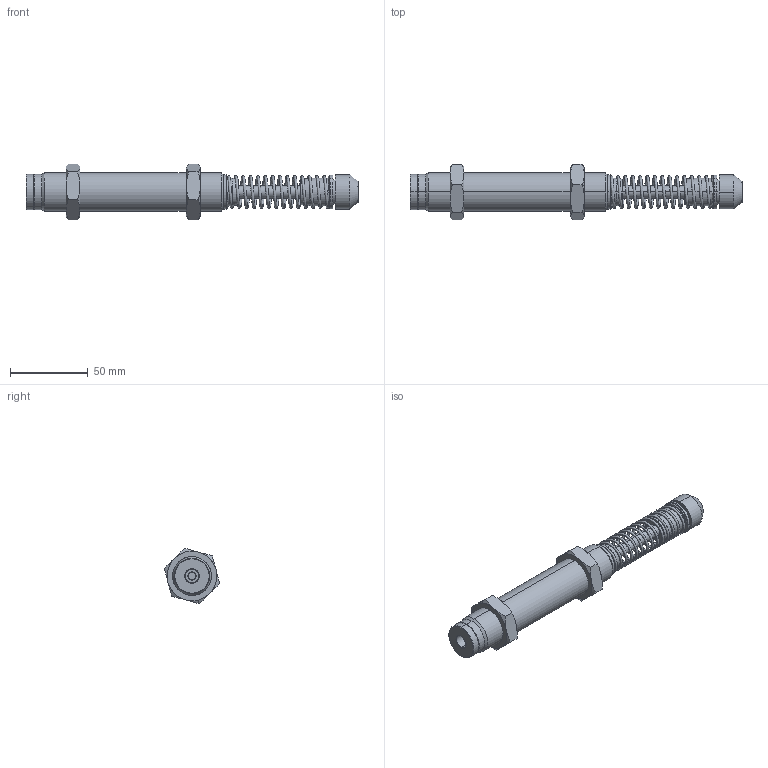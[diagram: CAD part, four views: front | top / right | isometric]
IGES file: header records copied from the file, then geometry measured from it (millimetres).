
Start section: SolidWorks IGES file using analytic representation for surfaces
Global section: file name: D:\IGS跡宒\AC2540(P2.0).IGS,1; native system: 5HSolidWorks 2013; preprocessor: SolidWorks 2013; author: Administrator; date: 160412.105934; units: inch
Bounding box: 214 x 35.63 x 35.75 mm (x, y, z)
Surface area: 25498.2 mm2 (no closed solid volume)
Topology: 0 solids, 0 shells, 122 faces, 1791 edges, 1791 vertices
Faces by surface type: revolution 90, bspline 32
